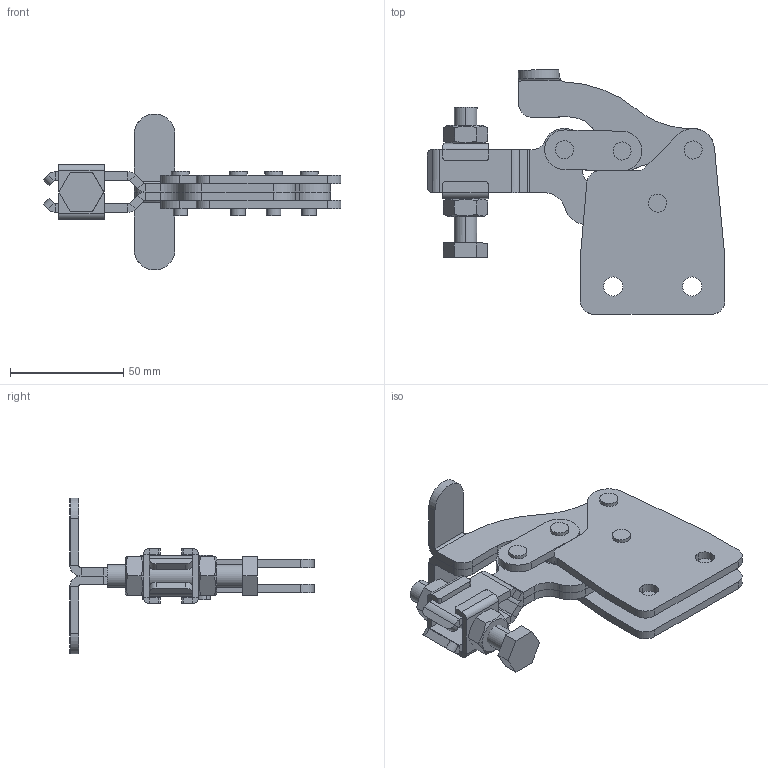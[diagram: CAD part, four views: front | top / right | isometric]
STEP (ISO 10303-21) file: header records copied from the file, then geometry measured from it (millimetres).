
FILE_DESCRIPTION (( 'STEP AP203' ), '1' );
FILE_NAME ('KF-104 R.STEP', '2014-03-07T13:30:53', ( 'Ricardo' ), ( '' ), 'SwSTEP 2.0', 'SolidWorks 2013', '' );
FILE_SCHEMA (( 'CONFIG_CONTROL_DESIGN' ));
Length unit declared in the file: millimetre
Products named in the file (12): KF-104 R; 12.50107; 14.10003; 01.10206_esquerda; 02.11087_direita; 01.10206_direita; 03.13054_direita; 03.13054_esquerda; 11.50003; 08.10084_Montagem; PS-M10x60; 3670000073
Assembly tree (18 placements, depth 3):
  KF-104 R
    01.10206_direita
    01.10206_esquerda
    02.11087_direita  x2
    03.13054_direita
    03.13054_esquerda
    08.10084_Montagem  x2
    3670000073  x4
    PS-M10x60
      12.50107
      14.10003  x2
      11.50003  x2
Bounding box: 131.78 x 108.22 x 68.99 mm (x, y, z)
Volume: 84283.8 mm3; surface area: 55353.9 mm2
Topology: 17 solids, 17 shells, 340 faces, 801 edges, 500 vertices
Faces by surface type: plane 168, cylinder 154, cone 16, bspline 2
Entity records: 8718 total; most frequent: CARTESIAN_POINT 1431, DIRECTION 1312, ORIENTED_EDGE 1150, EDGE_CURVE 575, AXIS2_PLACEMENT_3D 495, VERTEX_POINT 356, VECTOR 322, LINE 322
